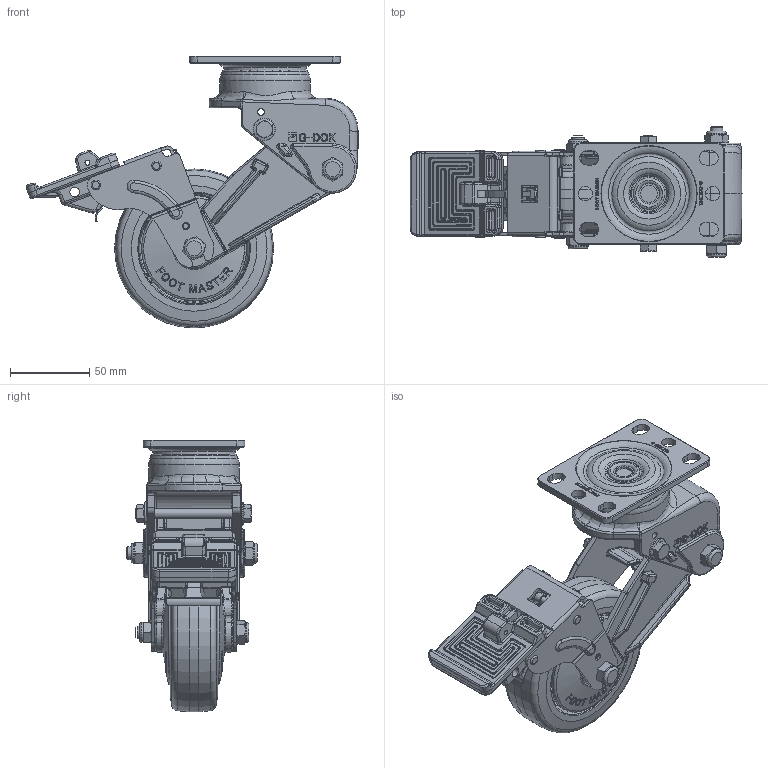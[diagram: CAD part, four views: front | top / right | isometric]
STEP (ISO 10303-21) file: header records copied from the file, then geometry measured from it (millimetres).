
FILE_DESCRIPTION(/* description */ (''),/* implementation_level */ '2;1');
FILE_NAME(/* name */ 'Z:\1.기술연구소\2.연구개발 진행중\25.충격흡수식_BBB\JYH\GDS-100-BB\2020년도\3.도면\1.3D\STEP-FILE\홈페이지용 3D_전달용\GDSB-100-BRF-LUD_PUS.stp',/* time_stamp */ '2021-10-08T20:02:44+09:00',/* author */ ('admin'),/* organization */ (''),/* preprocessor_version */ 'ST-DEVELOPER v18.1',/* originating_system */ 'Autodesk Inventor 2021',/* authorisation */ '');
FILE_SCHEMA (('AUTOMOTIVE_DESIGN { 1 0 10303 214 3 1 1 }'));
Products named in the file (1): GDSB-100-BRF-LUD_PUS
Bounding box: 208.85 x 82 x 171 mm (x, y, z)
Volume: 422163.9 mm3; surface area: 155794.2 mm2
Topology: 1 solids, 2 shells, 3780 faces, 9442 edges, 5734 vertices
Faces by surface type: bspline 1270, plane 1178, cylinder 862, torus 226, cone 192, sphere 52
Full cylindrical faces by diameter (mm): 3 x3, 3.1 x2, 4 x3, 4.2 x6, 4.5 x2, 4.782 x1, 4.8 x2, 6 x6, 6.2 x2, 7.007 x1, 7.4 x1, 7.95 x5, 8.2 x2, 9 x2, 9.95 x1, 10.2 x4, 10.7 x1, 11.6 x2, 12.5 x4, 14 x2, 20 x2, 20.903 x2, 22 x2, 39 x1, 46.062 x1, 52 x1, 57 x1, 100 x1
Entity records: 147500 total; most frequent: CARTESIAN_POINT 59111, ORIENTED_EDGE 18730, DIRECTION 16173, EDGE_CURVE 9365, AXIS2_PLACEMENT_3D 6234, VERTEX_POINT 5734, EDGE_LOOP 3987, FACE_OUTER_BOUND 3780
